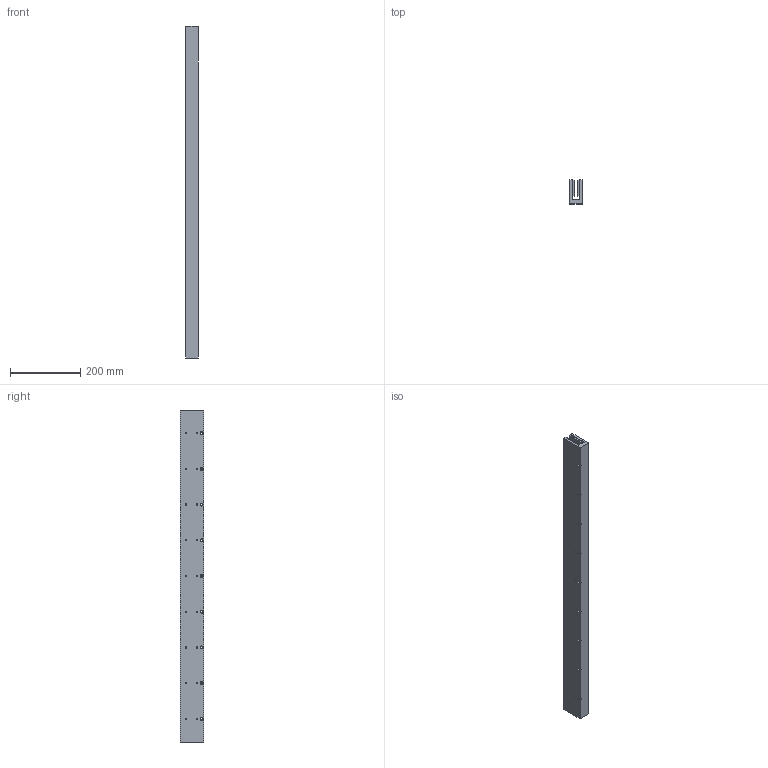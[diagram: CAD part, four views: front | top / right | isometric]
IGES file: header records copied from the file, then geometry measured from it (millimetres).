
Global section: file name: No Iges File Name specified; native system: Autodesk Inventor 2009; preprocessor: AutoDesk Inventor Iges Exporter R2009; author: je17857; date: 20091116.111546; units: inch
Bounding box: 34.29 x 67.31 x 944.88 mm (x, y, z)
Volume: 1413199.7 mm3; surface area: 355823.3 mm2
Topology: 1 solids, 1 shells, 482 faces, 1146 edges, 764 vertices
Faces by surface type: plane 338, bspline 144
